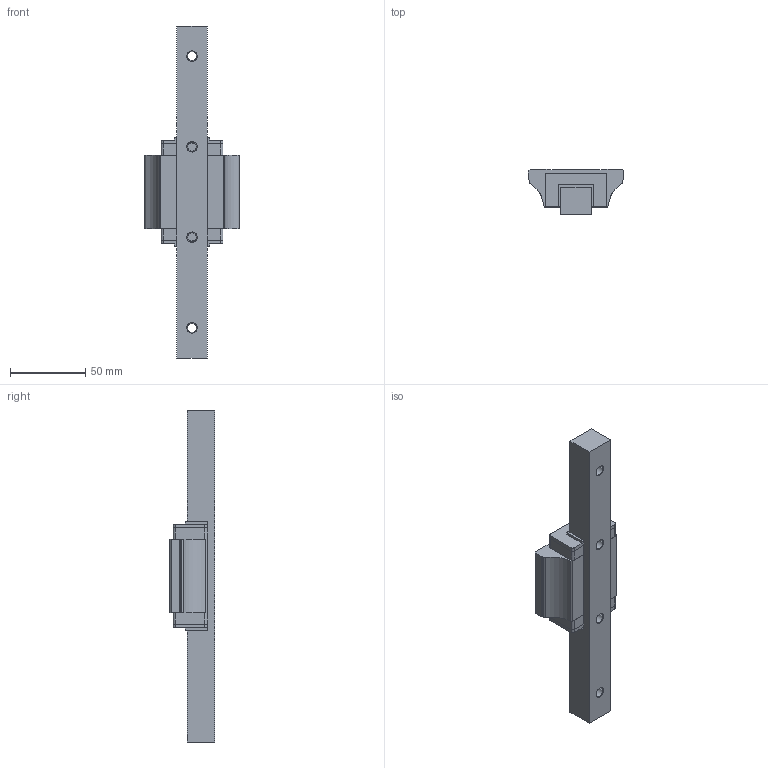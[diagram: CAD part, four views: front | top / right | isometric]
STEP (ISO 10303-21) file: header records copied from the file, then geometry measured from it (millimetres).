
FILE_DESCRIPTION((''),'2;1');
FILE_NAME('E:\PDF郪磁芞\DFH20A.STP','2018-01-27T14:19:44',(''),(''),'STEP Write','Mastercam V9 ... CNC Software, Inc.','');
FILE_SCHEMA(('CONFIG_CONTROL_DESIGN'));
Length unit declared in the file: millimetre
Bounding box: 63 x 30 x 220 mm (x, y, z)
Volume: 140048.5 mm3; surface area: 39404.4 mm2
Topology: 6 solids, 6 shells, 128 faces, 602 edges, 768 vertices
Faces by surface type: plane 88, cylinder 32, cone 8
Full cylindrical faces by diameter (mm): 5.8 x4, 6 x4, 9.5 x4
Entity records: 5990 total; most frequent: CARTESIAN_POINT 1668, DIRECTION 954, ORIENTED_EDGE 608, VECTOR 426, LINE 426, EDGE_CURVE 304, TRIMMED_CURVE 274, AXIS2_PLACEMENT_3D 264
